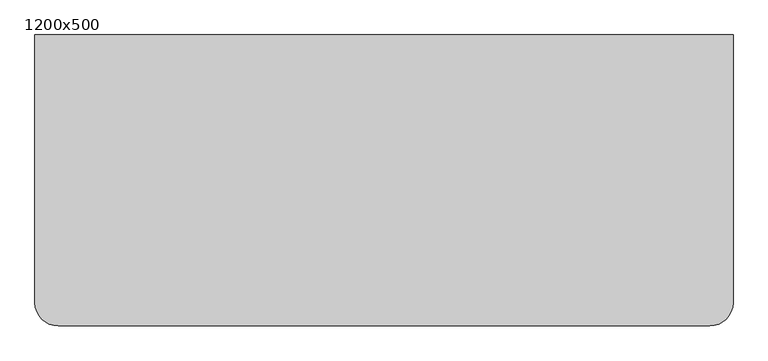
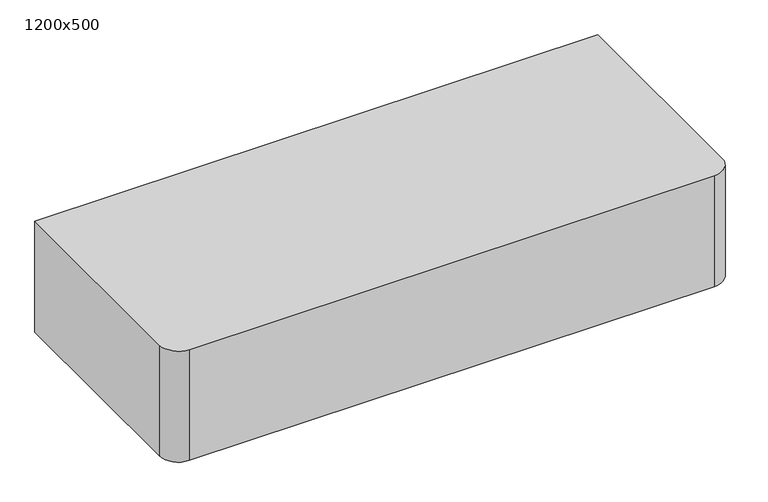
"""IFC4 building model written with IfcOpenShell, lengths in millimetres: flow terminal geometry, SP_раковина двойная_LEG : 1200x500."""

from ifc_helpers import new_model, si_unit, point, frame_2d, origin, origin_with_axes, place, context, project, spatial, polyline, circle_curve, trimmed, segment, composite_curve, outline, extrude, source, transform, mapped, element, save


def flow_terminal_1200x500_5e356789(model_context):
    return source(origin(), model_context, "Body", "SweptSolid", [
        extrude(outline(composite_curve([segment(polyline([(600.0, 0.0), (600.0, -460.0)]), True, "CONTINUOUS"), segment(trimmed(circle_curve(frame_2d((560.0, -460.0)), 40.0), [point((600.0, -460.0))], [point((560.0, -500.0))], False, "CARTESIAN"), True, "CONTINUOUS"), segment(polyline([(560.0, -500.0), (-560.0, -500.0)]), True, "CONTINUOUS"), segment(trimmed(circle_curve(frame_2d((-560.0, -460.0)), 40.0), [point((-560.0, -500.0))], [point((-600.0, -460.0))], False, "CARTESIAN"), True, "CONTINUOUS"), segment(polyline([(-600.0, -460.0), (-600.0, 0.0), (600.0, 0.0)]), True, "CONTINUOUS")], self_intersect=False)), origin_with_axes(), (0.0, 0.0, 1.0), 250.0),
    ])


if __name__ == "__main__":
    model = new_model("IFC4")
    model_context = context("Model", 3, world=origin())
    ifc_project = project(units=[si_unit("LENGTHUNIT", "METRE", prefix="MILLI")], contexts=[model_context])
    site = spatial("IfcSite", under=ifc_project)
    building = spatial("IfcBuilding", under=site)
    placement = place(None, origin())
    flow_terminal_1200x500_shape = flow_terminal_1200x500_5e356789(model_context)
    element("IfcFlowTerminal", 1, ObjectType="SP_раковина двойная_LEG : 1200x500", at=placement, inside=building, context=model_context, shape_type="MappedRepresentation", body=[
        mapped(flow_terminal_1200x500_shape, transform((0.0, 0.0, 0.0), x_axis=(1.0, 0.0, 0.0), y_axis=(0.0, 1.0, 0.0), z_axis=(0.0, 0.0, 1.0))),
    ])
    save(model, "model.ifc")
